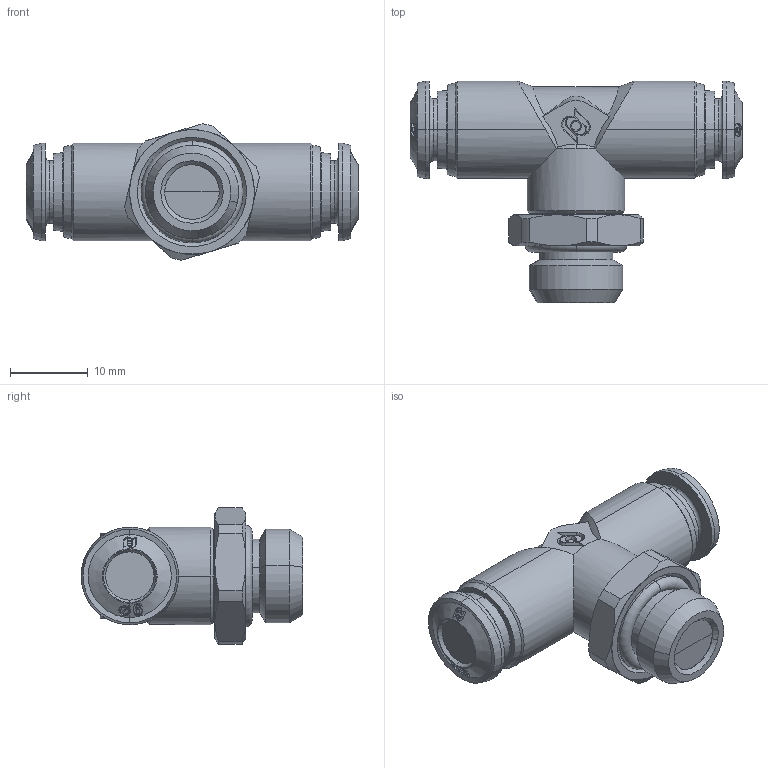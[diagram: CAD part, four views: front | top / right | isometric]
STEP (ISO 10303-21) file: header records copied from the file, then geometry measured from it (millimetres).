
FILE_DESCRIPTION (( 'STEP AP214' ), '1' );
FILE_NAME ('5021600022.step', '2012-10-01T16:49:52', ( '' ), ( '' ), 'SwSTEP 2.0', 'SolidWorks 2012', '' );
FILE_SCHEMA (( 'AUTOMOTIVE_DESIGN' ));
Length unit declared in the file: millimetre
Products named in the file (1): 5021600022
Bounding box: 42.6 x 28.45 x 17.51 mm (x, y, z)
Volume: 6848.3 mm3; surface area: 3520.5 mm2
Topology: 2 solids, 2 shells, 325 faces, 831 edges, 532 vertices
Faces by surface type: cone 109, bspline 98, plane 55, cylinder 45, torus 18
Entity records: 20648 total; most frequent: CARTESIAN_POINT 10326, ORIENTED_EDGE 1654, DIRECTION 1035, EDGE_CURVE 827, VERTEX_POINT 532, B_SPLINE_CURVE_WITH_KNOTS 432, AXIS2_PLACEMENT_3D 425, EDGE_LOOP 353
